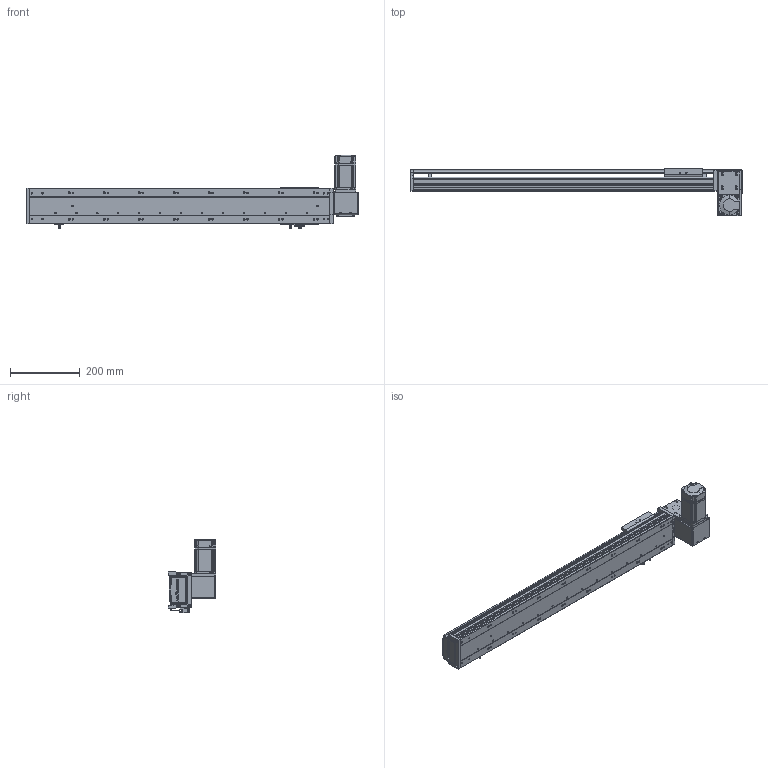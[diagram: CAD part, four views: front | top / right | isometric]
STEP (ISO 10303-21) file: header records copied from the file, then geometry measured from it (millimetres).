
FILE_DESCRIPTION (( 'STEP AP203' ), '1' );
FILE_NAME ('RY100-T-300-DR.SLDASM_650.step', '2024-04-25T03:22:24', ( '盈信电脑' ), ( '东莞市道滘镇水果街19号' ), 'SwSTEP 2.0', 'SolidWorks 2016', '' );
FILE_SCHEMA (( 'CONFIG_CONTROL_DESIGN' ));
Length unit declared in the file: millimetre
Products named in the file (16): 覜茼ん672; 滅袉蝶18-10; 侂狟200W萇儂; RY100-T左右折电机安装板; RY100-T-300-DR.SLDASM_650; 1; RY100-T肮祭謫翋盓傅釱; RY100俋离覜茼え; RY100-T-300-RK倰第奻裔_650; RY100綴裔啣; RY100-T翋肮祭謫裔啣2; RY80-T肮祭謫狟殏俋欶; RY100-T-300-RK倰第菁釱_650; RY100-T粣創揤踡裔; RY100-T肮祭謫臏賑輸; RY100-T翋肮祭謫裔啣
Assembly tree (19 placements, depth 3):
  RY100-T-300-DR.SLDASM_650
    RY100-T-300-RK倰第菁釱_650
    RY100-T-300-RK倰第奻裔_650
    RY100-T肮祭謫臏賑輸
    RY100綴裔啣
    覜茼ん672  x3
    RY100俋离覜茼え
    RY100-T肮祭謫翋盓傅釱
    RY100-T左右折电机安装板
    侂狟200W萇儂
      1
    RY100-T粣創揤踡裔
    滅袉蝶18-10  x2
    RY100-T翋肮祭謫裔啣2  x2
    RY100-T翋肮祭謫裔啣
    RY80-T肮祭謫狟殏俋欶
Bounding box: 950 x 135.5 x 209.7 mm (x, y, z)
Volume: 2080878.7 mm3; surface area: 846183.2 mm2
Topology: 18 solids, 18 shells, 2229 faces, 6198 edges, 4026 vertices
Faces by surface type: plane 1217, cylinder 801, cone 133, bspline 78
Entity records: 71421 total; most frequent: CARTESIAN_POINT 17258, ORIENTED_EDGE 11132, DIRECTION 10586, EDGE_CURVE 5566, VERTEX_POINT 3662, LINE 3604, VECTOR 3604, AXIS2_PLACEMENT_3D 3491
